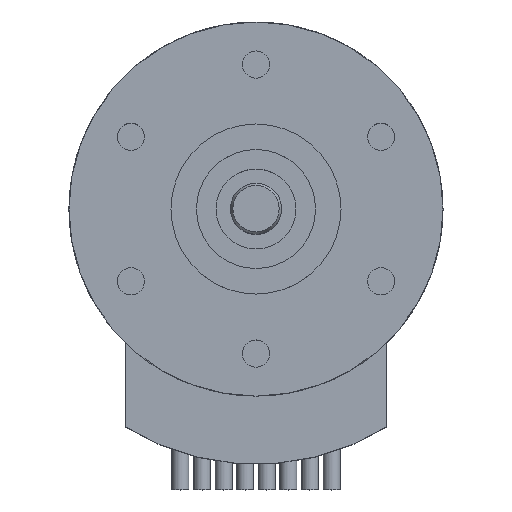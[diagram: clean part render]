
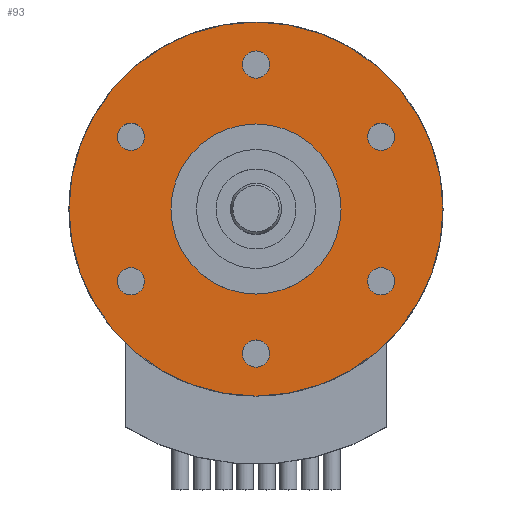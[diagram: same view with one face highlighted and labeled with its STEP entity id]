
A CAD part, top view. The second image highlights one B-rep face of the part: STEP entity #93.
In plain terms, the highlighted planar face has unit normal (0, 0, 1).
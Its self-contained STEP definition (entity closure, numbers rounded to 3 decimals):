
#66=PLANE('',#819);
#93=ADVANCED_FACE('',(#189,#190,#191,#192,#193,#194,#195,#196),#66,.T.);
#189=FACE_BOUND('',#286,.T.);
#190=FACE_BOUND('',#287,.T.);
#191=FACE_BOUND('',#288,.T.);
#192=FACE_BOUND('',#289,.T.);
#193=FACE_BOUND('',#290,.T.);
#194=FACE_BOUND('',#291,.T.);
#195=FACE_BOUND('',#292,.T.);
#196=FACE_BOUND('',#293,.T.);
#286=EDGE_LOOP('',(#472));
#287=EDGE_LOOP('',(#473));
#288=EDGE_LOOP('',(#474));
#289=EDGE_LOOP('',(#475));
#290=EDGE_LOOP('',(#476));
#291=EDGE_LOOP('',(#477));
#292=EDGE_LOOP('',(#478));
#293=EDGE_LOOP('',(#479));
#406=CIRCLE('',#810,11.);
#407=CIRCLE('',#812,0.8);
#408=CIRCLE('',#813,0.8);
#409=CIRCLE('',#814,0.8);
#410=CIRCLE('',#815,0.8);
#411=CIRCLE('',#816,0.8);
#412=CIRCLE('',#817,0.8);
#413=CIRCLE('',#818,5.);
#472=ORIENTED_EDGE('',*,*,#701,.T.);
#473=ORIENTED_EDGE('',*,*,#702,.T.);
#474=ORIENTED_EDGE('',*,*,#703,.T.);
#475=ORIENTED_EDGE('',*,*,#704,.T.);
#476=ORIENTED_EDGE('',*,*,#705,.T.);
#477=ORIENTED_EDGE('',*,*,#706,.T.);
#478=ORIENTED_EDGE('',*,*,#707,.F.);
#479=ORIENTED_EDGE('',*,*,#700,.F.);
#629=VERTEX_POINT('',#1220);
#630=VERTEX_POINT('',#1223);
#631=VERTEX_POINT('',#1225);
#632=VERTEX_POINT('',#1227);
#633=VERTEX_POINT('',#1229);
#634=VERTEX_POINT('',#1231);
#635=VERTEX_POINT('',#1233);
#636=VERTEX_POINT('',#1235);
#700=EDGE_CURVE('',#629,#629,#406,.T.);
#701=EDGE_CURVE('',#630,#630,#407,.T.);
#702=EDGE_CURVE('',#631,#631,#408,.T.);
#703=EDGE_CURVE('',#632,#632,#409,.T.);
#704=EDGE_CURVE('',#633,#633,#410,.T.);
#705=EDGE_CURVE('',#634,#634,#411,.T.);
#706=EDGE_CURVE('',#635,#635,#412,.T.);
#707=EDGE_CURVE('',#636,#636,#413,.T.);
#810=AXIS2_PLACEMENT_3D('',#1219,#944,#945);
#812=AXIS2_PLACEMENT_3D('',#1222,#948,#949);
#813=AXIS2_PLACEMENT_3D('',#1224,#950,#951);
#814=AXIS2_PLACEMENT_3D('',#1226,#952,#953);
#815=AXIS2_PLACEMENT_3D('',#1228,#954,#955);
#816=AXIS2_PLACEMENT_3D('',#1230,#956,#957);
#817=AXIS2_PLACEMENT_3D('',#1232,#958,#959);
#818=AXIS2_PLACEMENT_3D('',#1234,#960,#961);
#819=AXIS2_PLACEMENT_3D('',#1236,#962,#963);
#944=DIRECTION('',(0.,0.,-1.));
#945=DIRECTION('',(1.,0.,0.));
#948=DIRECTION('',(0.,0.,-1.));
#949=DIRECTION('',(-1.,0.,0.));
#950=DIRECTION('',(0.,0.,-1.));
#951=DIRECTION('',(-1.,0.,0.));
#952=DIRECTION('',(0.,0.,-1.));
#953=DIRECTION('',(-1.,0.,0.));
#954=DIRECTION('',(0.,0.,-1.));
#955=DIRECTION('',(-1.,0.,0.));
#956=DIRECTION('',(0.,0.,-1.));
#957=DIRECTION('',(-1.,0.,0.));
#958=DIRECTION('',(0.,0.,-1.));
#959=DIRECTION('',(-1.,0.,0.));
#960=DIRECTION('',(0.,0.,1.));
#961=DIRECTION('',(1.,0.,0.));
#962=DIRECTION('',(0.,0.,1.));
#963=DIRECTION('',(1.,0.,0.));
#1219=CARTESIAN_POINT('',(0.,0.,0.));
#1220=CARTESIAN_POINT('',(11.,0.,0.));
#1222=CARTESIAN_POINT('',(7.361,4.25,0.));
#1223=CARTESIAN_POINT('',(6.561,4.25,0.));
#1224=CARTESIAN_POINT('',(7.361,-4.25,0.));
#1225=CARTESIAN_POINT('',(6.561,-4.25,0.));
#1226=CARTESIAN_POINT('',(0.,-8.5,0.));
#1227=CARTESIAN_POINT('',(-0.8,-8.5,0.));
#1228=CARTESIAN_POINT('',(-7.361,-4.25,0.));
#1229=CARTESIAN_POINT('',(-8.161,-4.25,0.));
#1230=CARTESIAN_POINT('',(-7.361,4.25,0.));
#1231=CARTESIAN_POINT('',(-8.161,4.25,0.));
#1232=CARTESIAN_POINT('',(0.,8.5,0.));
#1233=CARTESIAN_POINT('',(-0.8,8.5,0.));
#1234=CARTESIAN_POINT('',(0.,0.,0.));
#1235=CARTESIAN_POINT('',(5.,0.,0.));
#1236=CARTESIAN_POINT('',(0.,0.,0.));
